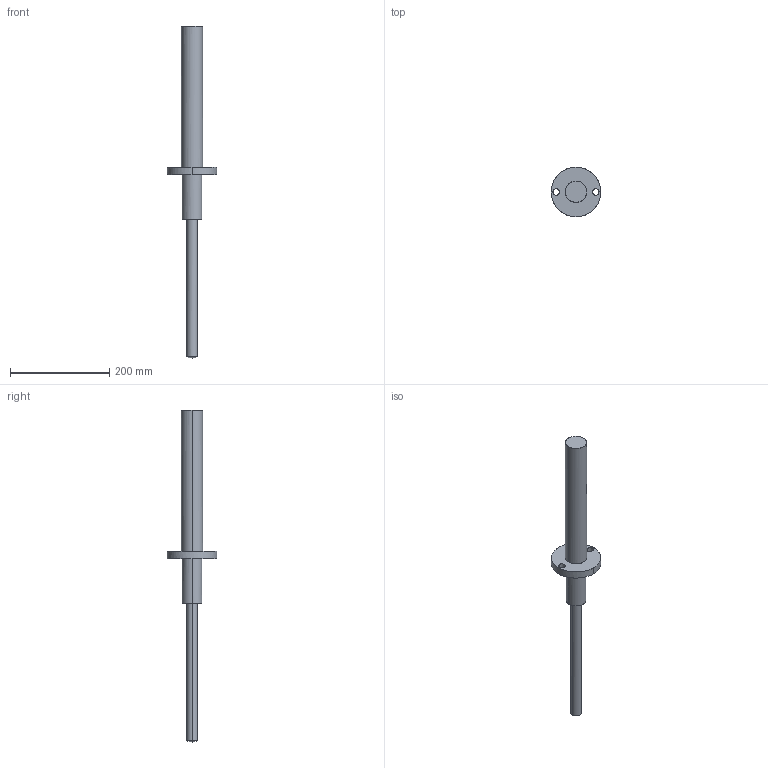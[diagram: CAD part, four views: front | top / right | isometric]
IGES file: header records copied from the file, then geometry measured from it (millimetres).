
Global section: file name: E:\UnigraphicsGraphicData\MISUMI_PRESS-PARTS\IGES\3d_paps270-90_01687_r00.igs; native system: NX V5.0; preprocessor: UGS NX IGES V5.0; author: MISUMI; date: 20110105.162224; units: millimetre
Bounding box: 100 x 100 x 670 mm (x, y, z)
Surface area: 94761 mm2 (no closed solid volume)
Topology: 0 solids, 0 shells, 22 faces, 232 edges, 230 vertices
Faces by surface type: bspline 22
